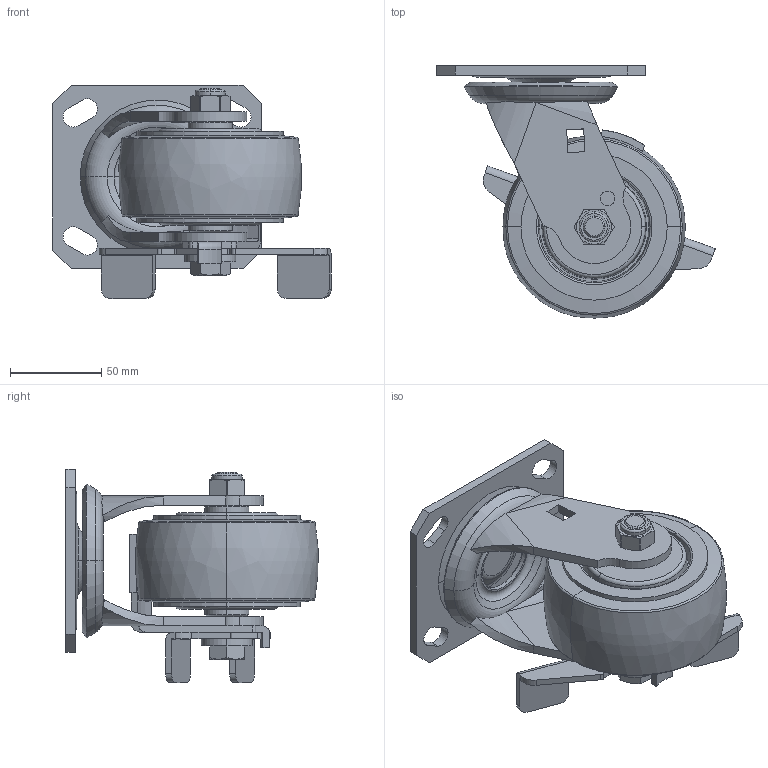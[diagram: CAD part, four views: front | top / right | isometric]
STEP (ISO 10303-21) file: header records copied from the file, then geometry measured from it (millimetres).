
FILE_DESCRIPTION((''),'2;1');
FILE_NAME('S7124C_ASM','2021-10-19T',('lenovo'),(''),'PRO/ENGINEER BY PARAMETRIC TECHNOLOGY CORPORATION, 2010280','PRO/ENGINEER BY PARAMETRIC TECHNOLOGY CORPORATION, 2010280','');
FILE_SCHEMA(('CONFIG_CONTROL_DESIGN'));
Length unit declared in the file: millimetre
Products named in the file (10): S710-01; S710C03; S714C11; S714-11_ASM; S714-15; S710-14; S710-33-1; S710-34; 704-986; S7124C_ASM
Assembly tree (9 placements, depth 3):
  S7124C_ASM
    S710-01
    S714-11_ASM
      S710C03
      S714C11
    S714-15
    S710-14
    S710-33-1
    S710-34
    704-986
Bounding box: 152.21 x 137.82 x 116.5 mm (x, y, z)
Volume: 522631.6 mm3; surface area: 118651 mm2
Topology: 9 solids, 9 shells, 453 faces, 1144 edges, 730 vertices
Faces by surface type: plane 248, cylinder 107, cone 52, torus 36, bspline 10
Entity records: 14307 total; most frequent: CARTESIAN_POINT 2978, DIRECTION 2356, ORIENTED_EDGE 2288, EDGE_CURVE 1144, AXIS2_PLACEMENT_3D 804, VECTOR 748, LINE 748, VERTEX_POINT 730
